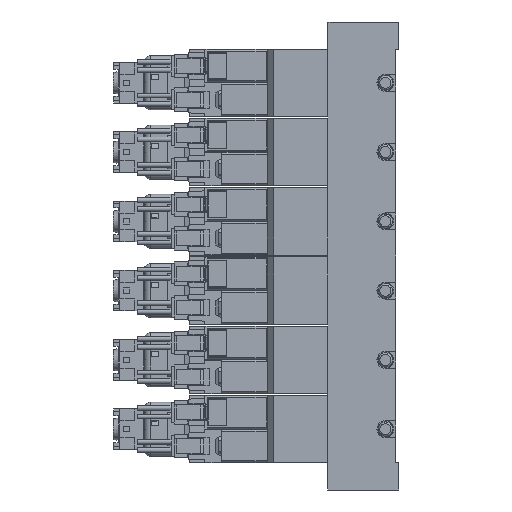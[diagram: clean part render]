
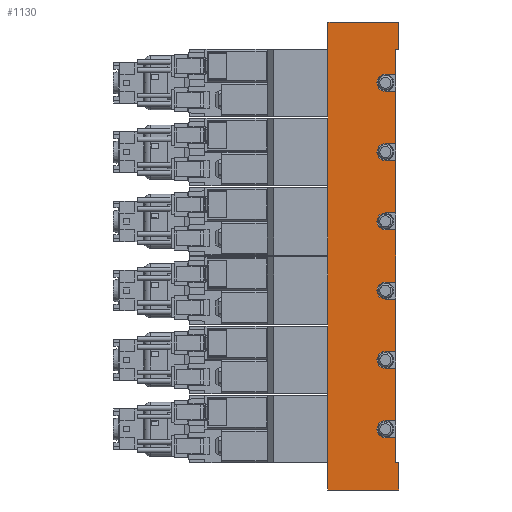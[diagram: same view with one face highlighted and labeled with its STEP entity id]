
A CAD part, left-side view. The second image highlights one B-rep face of the part: STEP entity #1130.
In plain terms, the highlighted planar face has unit normal (-1, 0, 0) as drawn and (1, 0, 0) by its records, which use the part's own axes.
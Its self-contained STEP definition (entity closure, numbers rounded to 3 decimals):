
#1130=ADVANCED_FACE('',(#4489),#4490,.F.);
#4489=FACE_OUTER_BOUND('',#11212,.T.);
#4490=PLANE('',#11213);
#11212=EDGE_LOOP('',(#20323,#20324,#20325,#20326,#20327,#20328,#20329,#20330,#20331,#20332,#20333,#20334,#20335,#20336,#20337,#20338,#20339,#20340,#20341,#20342,#20343,#20344,#20345,#20346,#20347,#20348,#20349,#20350,#20351,#20352,#20353,#20354));
#11213=AXIS2_PLACEMENT_3D('',#20355,#20356,#20357);
#20323=ORIENTED_EDGE('',*,*,#41287,.T.);
#20324=ORIENTED_EDGE('',*,*,#41288,.T.);
#20325=ORIENTED_EDGE('',*,*,#41289,.F.);
#20326=ORIENTED_EDGE('',*,*,#41290,.F.);
#20327=ORIENTED_EDGE('',*,*,#41291,.T.);
#20328=ORIENTED_EDGE('',*,*,#41292,.T.);
#20329=ORIENTED_EDGE('',*,*,#41293,.T.);
#20330=ORIENTED_EDGE('',*,*,#41294,.F.);
#20331=ORIENTED_EDGE('',*,*,#41295,.F.);
#20332=ORIENTED_EDGE('',*,*,#41296,.F.);
#20333=ORIENTED_EDGE('',*,*,#41297,.T.);
#20334=ORIENTED_EDGE('',*,*,#41298,.F.);
#20335=ORIENTED_EDGE('',*,*,#41299,.F.);
#20336=ORIENTED_EDGE('',*,*,#41300,.F.);
#20337=ORIENTED_EDGE('',*,*,#41301,.T.);
#20338=ORIENTED_EDGE('',*,*,#41302,.F.);
#20339=ORIENTED_EDGE('',*,*,#41303,.F.);
#20340=ORIENTED_EDGE('',*,*,#41304,.F.);
#20341=ORIENTED_EDGE('',*,*,#41305,.T.);
#20342=ORIENTED_EDGE('',*,*,#41306,.F.);
#20343=ORIENTED_EDGE('',*,*,#41307,.F.);
#20344=ORIENTED_EDGE('',*,*,#41308,.F.);
#20345=ORIENTED_EDGE('',*,*,#41309,.T.);
#20346=ORIENTED_EDGE('',*,*,#41310,.F.);
#20347=ORIENTED_EDGE('',*,*,#41311,.F.);
#20348=ORIENTED_EDGE('',*,*,#41312,.F.);
#20349=ORIENTED_EDGE('',*,*,#41313,.T.);
#20350=ORIENTED_EDGE('',*,*,#41314,.F.);
#20351=ORIENTED_EDGE('',*,*,#41315,.F.);
#20352=ORIENTED_EDGE('',*,*,#41260,.F.);
#20353=ORIENTED_EDGE('',*,*,#41316,.T.);
#20354=ORIENTED_EDGE('',*,*,#41317,.T.);
#20355=CARTESIAN_POINT('',(17.5,1.0,69.25));
#20356=DIRECTION('',(-1.0,0.0,0.0));
#20357=DIRECTION('',(0.0,0.0,1.0));
#41260=EDGE_CURVE('',#49976,#49977,#49978,.T.);
#41287=EDGE_CURVE('',#50030,#50031,#50032,.T.);
#41288=EDGE_CURVE('',#50031,#50033,#50034,.T.);
#41289=EDGE_CURVE('',#50035,#50033,#50036,.T.);
#41290=EDGE_CURVE('',#50037,#50035,#50038,.T.);
#41291=EDGE_CURVE('',#50037,#50039,#50040,.T.);
#41292=EDGE_CURVE('',#50039,#50041,#50042,.T.);
#41293=EDGE_CURVE('',#50041,#50043,#50044,.T.);
#41294=EDGE_CURVE('',#50045,#50043,#50046,.T.);
#41295=EDGE_CURVE('',#50047,#50045,#50048,.T.);
#41296=EDGE_CURVE('',#50049,#50047,#50050,.T.);
#41297=EDGE_CURVE('',#50049,#50051,#50052,.T.);
#41298=EDGE_CURVE('',#50053,#50051,#50054,.T.);
#41299=EDGE_CURVE('',#50055,#50053,#50056,.T.);
#41300=EDGE_CURVE('',#50057,#50055,#50058,.T.);
#41301=EDGE_CURVE('',#50057,#50059,#50060,.T.);
#41302=EDGE_CURVE('',#50061,#50059,#50062,.T.);
#41303=EDGE_CURVE('',#50063,#50061,#50064,.T.);
#41304=EDGE_CURVE('',#50065,#50063,#50066,.T.);
#41305=EDGE_CURVE('',#50065,#50067,#50068,.T.);
#41306=EDGE_CURVE('',#50069,#50067,#50070,.T.);
#41307=EDGE_CURVE('',#50071,#50069,#50072,.T.);
#41308=EDGE_CURVE('',#50073,#50071,#50074,.T.);
#41309=EDGE_CURVE('',#50073,#50075,#50076,.T.);
#41310=EDGE_CURVE('',#50077,#50075,#50078,.T.);
#41311=EDGE_CURVE('',#50079,#50077,#50080,.T.);
#41312=EDGE_CURVE('',#50081,#50079,#50082,.T.);
#41313=EDGE_CURVE('',#50081,#50083,#50084,.T.);
#41314=EDGE_CURVE('',#50085,#50083,#50086,.T.);
#41315=EDGE_CURVE('',#49977,#50085,#50087,.T.);
#41316=EDGE_CURVE('',#49976,#50088,#50089,.T.);
#41317=EDGE_CURVE('',#50088,#50030,#50090,.T.);
#49976=VERTEX_POINT('',#63060);
#49977=VERTEX_POINT('',#63061);
#49978=LINE('',#63062,#63063);
#50030=VERTEX_POINT('',#63343);
#50031=VERTEX_POINT('',#63344);
#50032=LINE('',#63345,#63346);
#50033=VERTEX_POINT('',#63347);
#50034=LINE('',#63348,#63349);
#50035=VERTEX_POINT('',#63350);
#50036=LINE('',#63351,#63352);
#50037=VERTEX_POINT('',#63353);
#50038=LINE('',#63354,#63355);
#50039=VERTEX_POINT('',#63356);
#50040=LINE('',#63357,#63358);
#50041=VERTEX_POINT('',#63359);
#50042=LINE('',#63360,#63361);
#50043=VERTEX_POINT('',#63362);
#50044=LINE('',#63363,#63364);
#50045=VERTEX_POINT('',#63365);
#50046=LINE('',#63366,#63367);
#50047=VERTEX_POINT('',#63368);
#50048=CIRCLE('',#63369,2.5);
#50049=VERTEX_POINT('',#63370);
#50050=LINE('',#63371,#63372);
#50051=VERTEX_POINT('',#63373);
#50052=LINE('',#63374,#63375);
#50053=VERTEX_POINT('',#63376);
#50054=LINE('',#63377,#63378);
#50055=VERTEX_POINT('',#63379);
#50056=CIRCLE('',#63380,2.5);
#50057=VERTEX_POINT('',#63381);
#50058=LINE('',#63382,#63383);
#50059=VERTEX_POINT('',#63384);
#50060=LINE('',#63385,#63386);
#50061=VERTEX_POINT('',#63387);
#50062=LINE('',#63388,#63389);
#50063=VERTEX_POINT('',#63390);
#50064=CIRCLE('',#63391,2.5);
#50065=VERTEX_POINT('',#63392);
#50066=LINE('',#63393,#63394);
#50067=VERTEX_POINT('',#63395);
#50068=LINE('',#63396,#63397);
#50069=VERTEX_POINT('',#63398);
#50070=LINE('',#63399,#63400);
#50071=VERTEX_POINT('',#63401);
#50072=CIRCLE('',#63402,2.5);
#50073=VERTEX_POINT('',#63403);
#50074=LINE('',#63404,#63405);
#50075=VERTEX_POINT('',#63406);
#50076=LINE('',#63407,#63408);
#50077=VERTEX_POINT('',#63409);
#50078=LINE('',#63410,#63411);
#50079=VERTEX_POINT('',#63412);
#50080=CIRCLE('',#63413,2.5);
#50081=VERTEX_POINT('',#63414);
#50082=LINE('',#63415,#63416);
#50083=VERTEX_POINT('',#63417);
#50084=LINE('',#63418,#63419);
#50085=VERTEX_POINT('',#63420);
#50086=LINE('',#63421,#63422);
#50087=CIRCLE('',#63423,2.5);
#50088=VERTEX_POINT('',#63424);
#50089=LINE('',#63425,#63426);
#50090=LINE('',#63427,#63428);
#63060=CARTESIAN_POINT('',(17.5,1.0,-53.75));
#63061=CARTESIAN_POINT('',(17.5,4.0,-53.75));
#63062=CARTESIAN_POINT('',(17.5,1.0,-53.75));
#63063=VECTOR('',#80501,1.0);
#63343=CARTESIAN_POINT('',(17.5,0.0,-61.25));
#63344=CARTESIAN_POINT('',(17.5,0.0,-69.25));
#63345=CARTESIAN_POINT('',(17.5,0.0,-61.25));
#63346=VECTOR('',#80549,1.0);
#63347=CARTESIAN_POINT('',(17.5,21.0,-69.25));
#63348=CARTESIAN_POINT('',(17.5,1.0,-69.25));
#63349=VECTOR('',#80550,1.0);
#63350=CARTESIAN_POINT('',(17.5,21.0,69.25));
#63351=CARTESIAN_POINT('',(17.5,21.0,69.25));
#63352=VECTOR('',#80551,1.0);
#63353=CARTESIAN_POINT('',(17.5,0.0,69.25));
#63354=CARTESIAN_POINT('',(17.5,1.0,69.25));
#63355=VECTOR('',#80552,1.0);
#63356=CARTESIAN_POINT('',(17.5,0.0,61.25));
#63357=CARTESIAN_POINT('',(17.5,0.0,69.25));
#63358=VECTOR('',#80553,1.0);
#63359=CARTESIAN_POINT('',(17.5,1.0,61.25));
#63360=CARTESIAN_POINT('',(17.5,0.0,61.25));
#63361=VECTOR('',#80554,1.0);
#63362=CARTESIAN_POINT('',(17.5,1.0,53.75));
#63363=CARTESIAN_POINT('',(17.5,1.0,69.25));
#63364=VECTOR('',#80555,1.0);
#63365=CARTESIAN_POINT('',(17.5,4.0,53.75));
#63366=CARTESIAN_POINT('',(17.5,1.0,53.75));
#63367=VECTOR('',#80556,1.0);
#63368=CARTESIAN_POINT('',(17.5,4.0,48.75));
#63369=AXIS2_PLACEMENT_3D('',#80557,#80558,#80559);
#63370=CARTESIAN_POINT('',(17.5,1.0,48.75));
#63371=CARTESIAN_POINT('',(17.5,1.0,48.75));
#63372=VECTOR('',#80560,1.0);
#63373=CARTESIAN_POINT('',(17.5,1.0,33.25));
#63374=CARTESIAN_POINT('',(17.5,1.0,69.25));
#63375=VECTOR('',#80561,1.0);
#63376=CARTESIAN_POINT('',(17.5,4.0,33.25));
#63377=CARTESIAN_POINT('',(17.5,1.0,33.25));
#63378=VECTOR('',#80562,1.0);
#63379=CARTESIAN_POINT('',(17.5,4.0,28.25));
#63380=AXIS2_PLACEMENT_3D('',#80563,#80564,#80565);
#63381=CARTESIAN_POINT('',(17.5,1.0,28.25));
#63382=CARTESIAN_POINT('',(17.5,1.0,28.25));
#63383=VECTOR('',#80566,1.0);
#63384=CARTESIAN_POINT('',(17.5,1.0,12.75));
#63385=CARTESIAN_POINT('',(17.5,1.0,69.25));
#63386=VECTOR('',#80567,1.0);
#63387=CARTESIAN_POINT('',(17.5,4.0,12.75));
#63388=CARTESIAN_POINT('',(17.5,1.0,12.75));
#63389=VECTOR('',#80568,1.0);
#63390=CARTESIAN_POINT('',(17.5,4.0,7.75));
#63391=AXIS2_PLACEMENT_3D('',#80569,#80570,#80571);
#63392=CARTESIAN_POINT('',(17.5,1.0,7.75));
#63393=CARTESIAN_POINT('',(17.5,1.0,7.75));
#63394=VECTOR('',#80572,1.0);
#63395=CARTESIAN_POINT('',(17.5,1.0,-7.75));
#63396=CARTESIAN_POINT('',(17.5,1.0,69.25));
#63397=VECTOR('',#80573,1.0);
#63398=CARTESIAN_POINT('',(17.5,4.0,-7.75));
#63399=CARTESIAN_POINT('',(17.5,1.0,-7.75));
#63400=VECTOR('',#80574,1.0);
#63401=CARTESIAN_POINT('',(17.5,4.0,-12.75));
#63402=AXIS2_PLACEMENT_3D('',#80575,#80576,#80577);
#63403=CARTESIAN_POINT('',(17.5,1.0,-12.75));
#63404=CARTESIAN_POINT('',(17.5,1.0,-12.75));
#63405=VECTOR('',#80578,1.0);
#63406=CARTESIAN_POINT('',(17.5,1.0,-28.25));
#63407=CARTESIAN_POINT('',(17.5,1.0,69.25));
#63408=VECTOR('',#80579,1.0);
#63409=CARTESIAN_POINT('',(17.5,4.0,-28.25));
#63410=CARTESIAN_POINT('',(17.5,1.0,-28.25));
#63411=VECTOR('',#80580,1.0);
#63412=CARTESIAN_POINT('',(17.5,4.0,-33.25));
#63413=AXIS2_PLACEMENT_3D('',#80581,#80582,#80583);
#63414=CARTESIAN_POINT('',(17.5,1.0,-33.25));
#63415=CARTESIAN_POINT('',(17.5,1.0,-33.25));
#63416=VECTOR('',#80584,1.0);
#63417=CARTESIAN_POINT('',(17.5,1.0,-48.75));
#63418=CARTESIAN_POINT('',(17.5,1.0,69.25));
#63419=VECTOR('',#80585,1.0);
#63420=CARTESIAN_POINT('',(17.5,4.0,-48.75));
#63421=CARTESIAN_POINT('',(17.5,1.0,-48.75));
#63422=VECTOR('',#80586,1.0);
#63423=AXIS2_PLACEMENT_3D('',#80587,#80588,#80589);
#63424=CARTESIAN_POINT('',(17.5,1.0,-61.25));
#63425=CARTESIAN_POINT('',(17.5,1.0,69.25));
#63426=VECTOR('',#80590,1.0);
#63427=CARTESIAN_POINT('',(17.5,4.0,-61.25));
#63428=VECTOR('',#80591,1.0);
#80501=DIRECTION('',(0.0,1.0,0.0));
#80549=DIRECTION('',(0.0,0.0,-1.0));
#80550=DIRECTION('',(0.0,1.0,0.0));
#80551=DIRECTION('',(0.0,0.0,-1.0));
#80552=DIRECTION('',(0.0,1.0,0.0));
#80553=DIRECTION('',(0.0,0.0,-1.0));
#80554=DIRECTION('',(0.0,1.0,0.0));
#80555=DIRECTION('',(0.0,0.0,-1.0));
#80556=DIRECTION('',(0.0,-1.0,0.0));
#80557=CARTESIAN_POINT('',(17.5,4.0,51.25));
#80558=DIRECTION('',(1.0,0.0,-0.0));
#80559=DIRECTION('',(0.0,0.0,1.0));
#80560=DIRECTION('',(0.0,1.0,0.0));
#80561=DIRECTION('',(0.0,0.0,-1.0));
#80562=DIRECTION('',(0.0,-1.0,0.0));
#80563=CARTESIAN_POINT('',(17.5,4.0,30.75));
#80564=DIRECTION('',(1.0,0.0,-0.0));
#80565=DIRECTION('',(0.0,0.0,1.0));
#80566=DIRECTION('',(0.0,1.0,0.0));
#80567=DIRECTION('',(0.0,0.0,-1.0));
#80568=DIRECTION('',(0.0,-1.0,0.0));
#80569=CARTESIAN_POINT('',(17.5,4.0,10.25));
#80570=DIRECTION('',(1.0,0.0,-0.0));
#80571=DIRECTION('',(0.0,0.0,1.0));
#80572=DIRECTION('',(0.0,1.0,0.0));
#80573=DIRECTION('',(0.0,0.0,-1.0));
#80574=DIRECTION('',(0.0,-1.0,0.0));
#80575=CARTESIAN_POINT('',(17.5,4.0,-10.25));
#80576=DIRECTION('',(1.0,0.0,-0.0));
#80577=DIRECTION('',(0.0,0.0,1.0));
#80578=DIRECTION('',(0.0,1.0,0.0));
#80579=DIRECTION('',(0.0,0.0,-1.0));
#80580=DIRECTION('',(0.0,-1.0,0.0));
#80581=CARTESIAN_POINT('',(17.5,4.0,-30.75));
#80582=DIRECTION('',(1.0,0.0,-0.0));
#80583=DIRECTION('',(0.0,0.0,1.0));
#80584=DIRECTION('',(0.0,1.0,0.0));
#80585=DIRECTION('',(0.0,0.0,-1.0));
#80586=DIRECTION('',(0.0,-1.0,0.0));
#80587=CARTESIAN_POINT('',(17.5,4.0,-51.25));
#80588=DIRECTION('',(1.0,0.0,-0.0));
#80589=DIRECTION('',(0.0,0.0,1.0));
#80590=DIRECTION('',(0.0,0.0,-1.0));
#80591=DIRECTION('',(0.0,-1.0,0.0));
